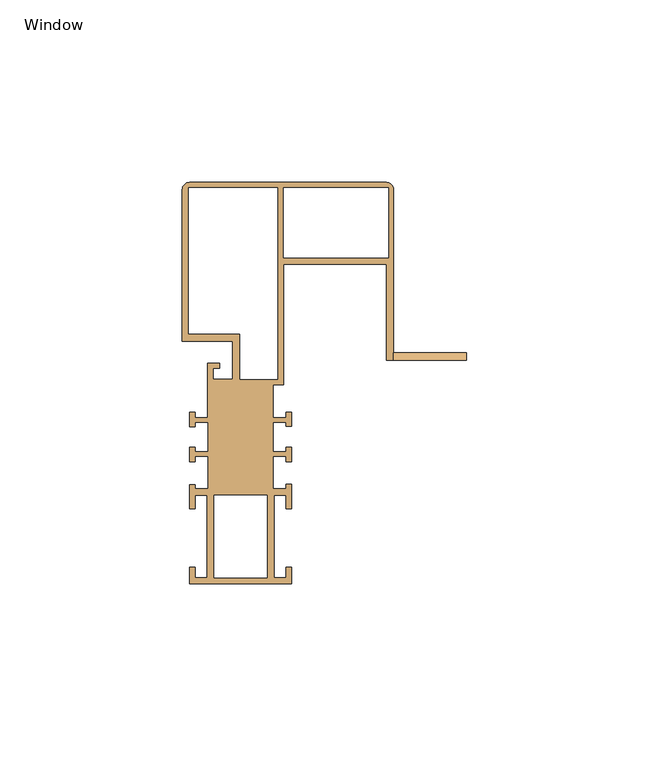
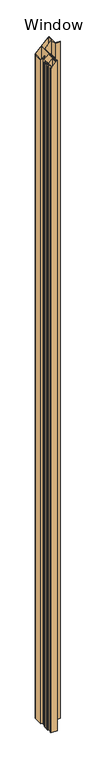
"""IFC4 building model written with IfcOpenShell, lengths in millimetres: door geometry, QO-H-QB_Door Module : Window."""

from ifc_helpers import new_model, si_unit, frame, origin, place, context, project, spatial, circle_curve, ellipse_curve, source, transform, mapped, element, save
from ifc_brep_helpers import plane_surface, cylinder_surface, advanced_brep


def window_c7373859(model_context):
    return source(origin(), model_context, "Body", "AdvancedBrep", [
        advanced_brep(
        [(654.4523452, -75.0037405, -4.0), (654.4523452, -84.0037561, -4.0), (658.0018295, -84.0037561, -4.0), (658.0018295, -82.8037561, -4.0), (659.5018295, -82.8037561, -4.0), (659.5018295, -89.5037561, -4.0), (658.0018295, -89.5037561, -4.0), (658.0018295, -85.7037561, -4.0), (654.7018295, -85.7037561, -4.0), (654.7018295, -108.3037561, -4.0), (658.0018295, -108.3037561, -4.0), (658.0018295, -105.5037561, -4.0), (659.5018295, -105.5037561, -4.0), (659.5018295, -110.0037561, -4.0), (631.5018295, -110.0037561, -4.0), (631.5018295, -105.5037561, -4.0), (633.0018295, -105.5037561, -4.0), (633.0018295, -108.3037561, -4.0), (636.3018295, -108.3037561, -4.0), (636.3018295, -85.7037561, -4.0), (633.0018295, -85.7037561, -4.0), (633.0018295, -89.5037561, -4.0), (631.5018295, -89.5037561, -4.0), (631.5018295, -82.8037561, -4.0), (633.0018295, -82.8037561, -4.0), (633.0018295, -84.0037561, -4.0), (636.5513139, -84.0037561, -4.0), (636.5513139, -75.0037405, -4.0), (633.0513133, -75.0037405, -4.0), (633.0513133, -76.5037405, -4.0), (631.5513133, -76.5037405, -4.0), (631.5513133, -72.6037405, -4.0), (633.0513133, -72.6037405, -4.0), (633.0513133, -73.8037405, -4.0), (636.5513133, -73.8037405, -4.0), (636.5513133, -65.7037405, -4.0), (633.0513133, -65.7037405, -4.0), (633.0513133, -66.9037405, -4.0), (631.5513133, -66.9037405, -4.0), (631.5513133, -63.0037405, -4.0), (633.0513133, -63.0037405, -4.0), (633.0513133, -64.5037405, -4.0), (636.5, -64.5037405, -4.0), (636.5, -49.6, -4.0), (639.8, -49.6, -4.0), (639.8, -51.0, -4.0), (637.9, -51.0, -4.0), (637.9, -54.0, -4.0), (643.3, -54.0, -4.0), (643.3, -43.5, -4.0), (629.5, -43.5, -4.0), (629.5, -2.0, -4.0), (631.5, 0.0, -4.0), (685.5, 0.0, -4.0), (687.5, -2.0, -4.0), (687.5, -46.7, -4.0), (707.4990835, -46.7, -4.0), (707.4990835, -48.7, -4.0), (685.4990835, -48.7, -4.0), (685.4990835, -22.4, -4.0), (657.3, -22.4, -4.0), (657.3, -55.4999986, -4.0), (654.4523459, -55.4999986, -4.0), (654.4523459, -64.5037405, -4.0), (657.9523458, -64.5037405, -4.0), (657.9523458, -63.0037405, -4.0), (659.4523458, -63.0037405, -4.0), (659.4523458, -66.9037405, -4.0), (657.9523458, -66.9037405, -4.0), (657.9523458, -65.7037405, -4.0), (654.4523458, -65.7037405, -4.0), (654.4523458, -73.8037405, -4.0), (657.9523458, -73.8037405, -4.0), (657.9523458, -72.6037405, -4.0), (659.4523458, -72.6037405, -4.0), (659.4523458, -76.5037405, -4.0), (657.9523458, -76.5037405, -4.0), (657.9523458, -75.0037405, -4.0), (657.3, -1.5, -4.0), (657.3, -20.7, -4.0), (686.0, -20.7, -4.0), (686.0, -1.5, -4.0), (645.3, -41.5, -4.0), (645.3, -54.0, -4.0), (655.6, -54.0, -4.0), (655.6, -1.5, -4.0), (631.2, -1.5, -4.0), (631.2, -41.5, -4.0), (638.2018295, -108.3037561, -4.0), (652.8018295, -108.3037561, -4.0), (652.8018295, -85.7037561, -4.0), (638.2018295, -85.7037561, -4.0), (654.4523452, -75.0037405, 2939.9523452), (654.4523452, -84.0037561, 2939.9523452), (658.0018295, -84.0037561, 2943.5018295), (658.0018295, -82.8037561, 2943.5018295), (659.5018295, -82.8037561, 2945.0018295), (659.5018295, -89.5037561, 2945.0018295), (658.0018295, -89.5037561, 2943.5018295), (658.0018295, -85.7037561, 2943.5018295), (654.7018295, -85.7037561, 2940.2018295), (654.7018295, -108.3037561, 2940.2018295), (658.0018295, -108.3037561, 2943.5018295), (658.0018295, -105.5037561, 2943.5018295), (659.5018295, -105.5037561, 2945.0018295), (659.5018295, -110.0037561, 2945.0018295), (631.5018295, -110.0037561, 2917.0018295), (631.5018295, -105.5037561, 2917.0018295), (633.0018295, -105.5037561, 2918.5018295), (633.0018295, -108.3037561, 2918.5018295), (636.3018295, -108.3037561, 2921.8018295), (636.3018295, -85.7037561, 2921.8018295), (633.0018295, -85.7037561, 2918.5018295), (633.0018295, -89.5037561, 2918.5018295), (631.5018295, -89.5037561, 2917.0018295), (631.5018295, -82.8037561, 2917.0018295), (633.0018295, -82.8037561, 2918.5018295), (633.0018295, -84.0037561, 2918.5018295), (636.5513139, -84.0037561, 2922.0513139), (636.5513139, -75.0037405, 2922.0513139), (633.0513133, -75.0037405, 2918.5513133), (633.0513133, -76.5037405, 2918.5513133), (631.5513133, -76.5037405, 2917.0513133), (631.5513133, -72.6037405, 2917.0513133), (633.0513133, -72.6037405, 2918.5513133), (633.0513133, -73.8037405, 2918.5513133), (636.5513133, -73.8037405, 2922.0513133), (636.5513133, -65.7037405, 2922.0513133), (633.0513133, -65.7037405, 2918.5513133), (633.0513133, -66.9037405, 2918.5513133), (631.5513133, -66.9037405, 2917.0513133), (631.5513133, -63.0037405, 2917.0513133), (633.0513133, -63.0037405, 2918.5513133), (633.0513133, -64.5037405, 2918.5513133), (636.5, -64.5037405, 2922.0), (636.5, -49.6, 2922.0), (639.8, -49.6, 2925.3), (639.8, -51.0, 2925.3), (637.9, -51.0, 2923.4), (637.9, -54.0, 2923.4), (643.3, -54.0, 2928.8), (643.3, -43.5, 2928.8), (629.5, -43.5, 2915.0), (629.5, -2.0, 2915.0), (631.5, 0.0, 2917.0), (685.5, 0.0, 2971.0), (687.5, -2.0, 2973.0), (687.5, -46.7, 2973.0), (707.4990835, -46.7, 2973.0), (707.4990835, -48.7, 2973.0), (687.5, -48.7, 2973.0), (685.4990835, -48.7, 2970.9990835), (685.4990835, -22.4, 2970.9990835), (657.3, -22.4, 2942.8), (657.3, -55.4999986, 2942.8), (654.4523459, -55.4999986, 2939.9523459), (654.4523459, -64.5037405, 2939.9523459), (657.9523458, -64.5037405, 2943.4523458), (657.9523458, -63.0037405, 2943.4523458), (659.4523458, -63.0037405, 2944.9523458), (659.4523458, -66.9037405, 2944.9523458), (657.9523458, -66.9037405, 2943.4523458), (657.9523458, -65.7037405, 2943.4523458), (654.4523458, -65.7037405, 2939.9523458), (654.4523458, -73.8037405, 2939.9523458), (657.9523458, -73.8037405, 2943.4523458), (657.9523458, -72.6037405, 2943.4523458), (659.4523458, -72.6037405, 2944.9523458), (659.4523458, -76.5037405, 2944.9523458), (657.9523458, -76.5037405, 2943.4523458), (657.9523458, -75.0037405, 2943.4523458), (657.3, -1.5, 2942.8), (657.3, -20.7, 2942.8), (686.0, -20.7, 2971.5), (686.0, -1.5, 2971.5), (645.3, -41.5, 2930.8), (645.3, -54.0, 2930.8), (655.6, -54.0, 2941.1), (655.6, -1.5, 2941.1), (631.2, -1.5, 2916.7), (631.2, -41.5, 2916.7), (638.2018295, -108.3037561, 2923.7018295), (652.8018295, -108.3037561, 2938.3018295), (652.8018295, -85.7037561, 2938.3018295), (638.2018295, -85.7037561, 2923.7018295)],
        [
            (0, 1),
            (1, 2),
            (2, 3),
            (3, 4),
            (4, 5),
            (5, 6),
            (6, 7),
            (7, 8),
            (8, 9),
            (9, 10),
            (10, 11),
            (11, 12),
            (12, 13),
            (13, 14),
            (14, 15),
            (15, 16),
            (16, 17),
            (17, 18),
            (18, 19),
            (19, 20),
            (20, 21),
            (21, 22),
            (22, 23),
            (23, 24),
            (24, 25),
            (25, 26),
            (26, 27),
            (27, 28),
            (28, 29),
            (29, 30),
            (30, 31),
            (31, 32),
            (32, 33),
            (33, 34),
            (34, 35),
            (35, 36),
            (36, 37),
            (37, 38),
            (38, 39),
            (39, 40),
            (40, 41),
            (41, 42),
            (42, 43),
            (43, 44),
            (44, 45),
            (45, 46),
            (46, 47),
            (47, 48),
            (48, 49),
            (49, 50),
            (50, 51),
            (51, 52, circle_curve(frame((631.5, -2.0, -4.0), z_axis=(0.0, 0.0, -1.0), x_axis=(0.0, -1.0, 0.0)), 2.0)),
            (52, 53),
            (53, 54, circle_curve(frame((685.5, -2.0, -4.0), z_axis=(0.0, 0.0, -1.0), x_axis=(0.0, -1.0, 0.0)), 2.0)),
            (54, 55),
            (55, 56),
            (56, 57),
            (57, 58),
            (58, 59),
            (59, 60),
            (60, 61),
            (61, 62),
            (62, 63),
            (63, 64),
            (64, 65),
            (65, 66),
            (66, 67),
            (67, 68),
            (68, 69),
            (69, 70),
            (70, 71),
            (71, 72),
            (72, 73),
            (73, 74),
            (74, 75),
            (75, 76),
            (76, 77),
            (77, 0),
            (78, 79),
            (79, 80),
            (80, 81),
            (81, 78),
            (82, 83),
            (83, 84),
            (84, 85),
            (85, 86),
            (86, 87),
            (87, 82),
            (88, 89),
            (89, 90),
            (90, 91),
            (91, 88),
            (0, 92),
            (92, 93),
            (93, 1),
            (93, 94),
            (94, 2),
            (94, 95),
            (95, 3),
            (95, 96),
            (96, 4),
            (96, 97),
            (97, 5),
            (97, 98),
            (98, 6),
            (98, 99),
            (99, 7),
            (99, 100),
            (100, 8),
            (100, 101),
            (101, 9),
            (101, 102),
            (102, 10),
            (102, 103),
            (103, 11),
            (103, 104),
            (104, 12),
            (104, 105),
            (105, 13),
            (105, 106),
            (106, 14),
            (106, 107),
            (107, 15),
            (107, 108),
            (108, 16),
            (108, 109),
            (109, 17),
            (109, 110),
            (110, 18),
            (110, 111),
            (111, 19),
            (111, 112),
            (112, 20),
            (112, 113),
            (113, 21),
            (113, 114),
            (114, 22),
            (114, 115),
            (115, 23),
            (115, 116),
            (116, 24),
            (116, 117),
            (117, 25),
            (117, 118),
            (118, 26),
            (118, 119),
            (119, 27),
            (119, 120),
            (120, 28),
            (120, 121),
            (121, 29),
            (121, 122),
            (122, 30),
            (122, 123),
            (123, 31),
            (123, 124),
            (124, 32),
            (124, 125),
            (125, 33),
            (125, 126),
            (126, 34),
            (126, 127),
            (127, 35),
            (127, 128),
            (128, 36),
            (128, 129),
            (129, 37),
            (129, 130),
            (130, 38),
            (130, 131),
            (131, 39),
            (131, 132),
            (132, 40),
            (132, 133),
            (133, 41),
            (133, 134),
            (134, 42),
            (134, 135),
            (135, 43),
            (135, 136),
            (136, 44),
            (136, 137),
            (137, 45),
            (137, 138),
            (138, 46),
            (138, 139),
            (139, 47),
            (139, 140),
            (140, 48),
            (140, 141),
            (141, 49),
            (141, 142),
            (142, 50),
            (142, 143),
            (143, 51),
            (143, 144, ellipse_curve(frame((631.5, -2.0, 2917.0), z_axis=(0.7071067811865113, 0.0, -0.7071067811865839), x_axis=(0.7071067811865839, 0.0, 0.707106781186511)), 2.8284271, 2.0)),
            (144, 52),
            (144, 145),
            (145, 53),
            (145, 146, ellipse_curve(frame((685.5, -2.0, 2971.0), z_axis=(0.7071067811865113, 0.0, -0.7071067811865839), x_axis=(0.7071067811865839, 0.0, 0.707106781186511)), 2.8284271, 2.0)),
            (146, 54),
            (146, 147),
            (147, 55),
            (147, 148),
            (148, 56),
            (148, 149),
            (149, 57),
            (149, 150),
            (150, 151),
            (151, 58),
            (151, 152),
            (152, 59),
            (152, 153),
            (153, 60),
            (153, 154),
            (154, 61),
            (154, 155),
            (155, 62),
            (155, 156),
            (156, 63),
            (156, 157),
            (157, 64),
            (157, 158),
            (158, 65),
            (158, 159),
            (159, 66),
            (159, 160),
            (160, 67),
            (160, 161),
            (161, 68),
            (161, 162),
            (162, 69),
            (162, 163),
            (163, 70),
            (163, 164),
            (164, 71),
            (164, 165),
            (165, 72),
            (165, 166),
            (166, 73),
            (166, 167),
            (167, 74),
            (167, 168),
            (168, 75),
            (168, 169),
            (169, 76),
            (169, 170),
            (170, 77),
            (170, 92),
            (78, 171),
            (171, 172),
            (172, 79),
            (172, 173),
            (173, 80),
            (173, 174),
            (174, 81),
            (174, 171),
            (82, 175),
            (175, 176),
            (176, 83),
            (176, 177),
            (177, 84),
            (177, 178),
            (178, 85),
            (178, 179),
            (179, 86),
            (179, 180),
            (180, 87),
            (180, 175),
            (88, 181),
            (181, 182),
            (182, 89),
            (182, 183),
            (183, 90),
            (183, 184),
            (184, 91),
            (184, 181),
            (147, 150),
        ],
        [
            plane_surface(frame((700.0, 0.0, -4.0), z_axis=(0.0, 0.0, -1.0), x_axis=(0.0, -1.0, 0.0))),
            plane_surface(frame((654.4523452, -84.0037561, 2973.0), z_axis=(1.0, 0.0, 0.0), x_axis=(0.0, 0.0, -1.0))),
            plane_surface(frame((658.0018295, -84.0037561, 2973.0), z_axis=(0.0, 1.0, 0.0), x_axis=(0.0, 0.0, -1.0))),
            plane_surface(frame((658.0018295, -82.8037561, 2973.0), z_axis=(-1.0, 0.0, 0.0), x_axis=(0.0, 0.0, -1.0))),
            plane_surface(frame((659.5018295, -82.8037561, 2973.0), z_axis=(0.0, 1.0, 0.0), x_axis=(0.0, 0.0, -1.0))),
            plane_surface(frame((659.5018295, -89.5037561, 2973.0), z_axis=(1.0, 0.0, 0.0), x_axis=(0.0, 0.0, -1.0))),
            plane_surface(frame((658.0018295, -89.5037561, 2973.0), z_axis=(0.0, -1.0, 0.0), x_axis=(0.0, 0.0, -1.0))),
            plane_surface(frame((658.0018295, -85.7037561, 2973.0), z_axis=(-1.0, 0.0, 0.0), x_axis=(0.0, 0.0, -1.0))),
            plane_surface(frame((654.7018295, -85.7037561, 2973.0), z_axis=(0.0, -1.0, 0.0), x_axis=(0.0, 0.0, -1.0))),
            plane_surface(frame((654.7018295, -108.3037561, 2973.0), z_axis=(1.0, 0.0, 0.0), x_axis=(0.0, 0.0, -1.0))),
            plane_surface(frame((658.0018295, -108.3037561, 2973.0), z_axis=(0.0, 1.0, 0.0), x_axis=(0.0, 0.0, -1.0))),
            plane_surface(frame((658.0018295, -105.5037561, 2973.0), z_axis=(-1.0, 0.0, 0.0), x_axis=(0.0, 0.0, -1.0))),
            plane_surface(frame((659.5018295, -105.5037561, 2973.0), z_axis=(0.0, 1.0, 0.0), x_axis=(0.0, 0.0, -1.0))),
            plane_surface(frame((659.5018295, -110.0037561, 2973.0), z_axis=(1.0, 0.0, 0.0), x_axis=(0.0, 0.0, -1.0))),
            plane_surface(frame((631.5018295, -110.0037561, 2973.0), z_axis=(0.0, -1.0, 0.0), x_axis=(0.0, 0.0, -1.0))),
            plane_surface(frame((631.5018295, -105.5037561, 2973.0), z_axis=(-1.0, 0.0, 0.0), x_axis=(0.0, 0.0, -1.0))),
            plane_surface(frame((633.0018295, -105.5037561, 2973.0), z_axis=(0.0, 1.0, 0.0), x_axis=(0.0, 0.0, -1.0))),
            plane_surface(frame((633.0018295, -108.3037561, 2973.0), z_axis=(1.0, 0.0, 0.0), x_axis=(0.0, 0.0, -1.0))),
            plane_surface(frame((636.3018295, -108.3037561, 2973.0), z_axis=(0.0, 1.0, 0.0), x_axis=(0.0, 0.0, -1.0))),
            plane_surface(frame((636.3018295, -85.7037561, 2973.0), z_axis=(-1.0, 0.0, 0.0), x_axis=(0.0, 0.0, -1.0))),
            plane_surface(frame((633.0018295, -85.7037561, 2973.0), z_axis=(0.0, -1.0, 0.0), x_axis=(0.0, 0.0, -1.0))),
            plane_surface(frame((633.0018295, -89.5037561, 2973.0), z_axis=(1.0, 0.0, 0.0), x_axis=(0.0, 0.0, -1.0))),
            plane_surface(frame((631.5018295, -89.5037561, 2973.0), z_axis=(0.0, -1.0, 0.0), x_axis=(0.0, 0.0, -1.0))),
            plane_surface(frame((631.5018295, -82.8037561, 2973.0), z_axis=(-1.0, 0.0, 0.0), x_axis=(0.0, 0.0, -1.0))),
            plane_surface(frame((633.0018295, -82.8037561, 2973.0), z_axis=(0.0, 1.0, 0.0), x_axis=(0.0, 0.0, -1.0))),
            plane_surface(frame((633.0018295, -84.0037561, 2973.0), z_axis=(1.0, 0.0, 0.0), x_axis=(0.0, 0.0, -1.0))),
            plane_surface(frame((636.5513139, -84.0037561, 2973.0), z_axis=(0.0, 1.0, 0.0), x_axis=(0.0, 0.0, -1.0))),
            plane_surface(frame((636.5513139, -75.0037405, 2973.0), z_axis=(-1.0, 0.0, 0.0), x_axis=(0.0, 0.0, -1.0))),
            plane_surface(frame((633.0513133, -75.0037405, 2973.0), z_axis=(0.0, -1.0, 0.0), x_axis=(0.0, 0.0, -1.0))),
            plane_surface(frame((633.0513133, -76.5037405, 2973.0), z_axis=(1.0, 0.0, 0.0), x_axis=(0.0, 0.0, -1.0))),
            plane_surface(frame((631.5513133, -76.5037405, 2973.0), z_axis=(0.0, -1.0, 0.0), x_axis=(0.0, 0.0, -1.0))),
            plane_surface(frame((631.5513133, -72.6037405, 2973.0), z_axis=(-1.0, 0.0, 0.0), x_axis=(0.0, 0.0, -1.0))),
            plane_surface(frame((633.0513133, -72.6037405, 2973.0), z_axis=(0.0, 1.0, 0.0), x_axis=(0.0, 0.0, -1.0))),
            plane_surface(frame((633.0513133, -73.8037405, 2973.0), z_axis=(1.0, 0.0, 0.0), x_axis=(0.0, 0.0, -1.0))),
            plane_surface(frame((636.5513133, -73.8037405, 2973.0), z_axis=(0.0, 1.0, 0.0), x_axis=(0.0, 0.0, -1.0))),
            plane_surface(frame((636.5513133, -65.7037405, 2973.0), z_axis=(-1.0, 0.0, 0.0), x_axis=(0.0, 0.0, -1.0))),
            plane_surface(frame((633.0513133, -65.7037405, 2973.0), z_axis=(0.0, -1.0, 0.0), x_axis=(0.0, 0.0, -1.0))),
            plane_surface(frame((633.0513133, -66.9037405, 2973.0), z_axis=(1.0, 0.0, 0.0), x_axis=(0.0, 0.0, -1.0))),
            plane_surface(frame((631.5513133, -66.9037405, 2973.0), z_axis=(0.0, -1.0, 0.0), x_axis=(0.0, 0.0, -1.0))),
            plane_surface(frame((631.5513133, -63.0037405, 2973.0), z_axis=(-1.0, 0.0, 0.0), x_axis=(0.0, 0.0, -1.0))),
            plane_surface(frame((633.0513133, -63.0037405, 2973.0), z_axis=(0.0, 1.0, 0.0), x_axis=(0.0, 0.0, -1.0))),
            plane_surface(frame((633.0513133, -64.5037405, 2973.0), z_axis=(1.0, 0.0, 0.0), x_axis=(0.0, 0.0, -1.0))),
            plane_surface(frame((636.5, -64.5037405, 2973.0), z_axis=(0.0, 1.0, 0.0), x_axis=(0.0, 0.0, -1.0))),
            plane_surface(frame((636.5, -49.6, 2973.0), z_axis=(-1.0, 0.0, 0.0), x_axis=(0.0, 0.0, -1.0))),
            plane_surface(frame((639.8, -49.6, 2973.0), z_axis=(0.0, 1.0, 0.0), x_axis=(0.0, 0.0, -1.0))),
            plane_surface(frame((639.8, -51.0, 2973.0), z_axis=(1.0, 0.0, 0.0), x_axis=(0.0, 0.0, -1.0))),
            plane_surface(frame((637.9, -51.0, 2973.0), z_axis=(0.0, -1.0, 0.0), x_axis=(0.0, 0.0, -1.0))),
            plane_surface(frame((637.9, -54.0, 2973.0), z_axis=(1.0, 0.0, 0.0), x_axis=(0.0, 0.0, -1.0))),
            plane_surface(frame((643.3, -54.0, 2973.0), z_axis=(0.0, 1.0, 0.0), x_axis=(0.0, 0.0, -1.0))),
            plane_surface(frame((643.3, -43.5, 2973.0), z_axis=(-1.0, 0.0, 0.0), x_axis=(0.0, 0.0, -1.0))),
            plane_surface(frame((629.5, -43.5, 2973.0), z_axis=(0.0, -1.0, 0.0), x_axis=(0.0, 0.0, -1.0))),
            plane_surface(frame((629.5, -2.0, 2973.0), z_axis=(-1.0, 0.0, 0.0), x_axis=(0.0, 0.0, -1.0))),
            cylinder_surface(frame((631.5, -2.0, 2973.0), z_axis=(0.0, 0.0, 1.0), x_axis=(0.0, -1.0, 0.0)), 2.0),
            plane_surface(frame((685.5, 0.0, 2973.0), z_axis=(0.0, 1.0, 0.0), x_axis=(0.0, 0.0, -1.0))),
            cylinder_surface(frame((685.5, -2.0, 2973.0), z_axis=(0.0, 0.0, 1.0), x_axis=(0.0, -1.0, 0.0)), 2.0),
            plane_surface(frame((687.5, -46.7, 2973.0), z_axis=(1.0, 0.0, 0.0), x_axis=(0.0, 0.0, -1.0))),
            plane_surface(frame((707.4990835, -46.7, 2973.0), z_axis=(0.0, 1.0, 0.0), x_axis=(0.0, 0.0, -1.0))),
            plane_surface(frame((707.4990835, -48.7, 2973.0), z_axis=(1.0, 0.0, 0.0), x_axis=(0.0, 0.0, -1.0))),
            plane_surface(frame((685.4990835, -48.7, 2973.0), z_axis=(0.0, -1.0, 0.0), x_axis=(0.0, 0.0, -1.0))),
            plane_surface(frame((685.4990835, -22.4, 2973.0), z_axis=(-1.0, 0.0, 0.0), x_axis=(0.0, 0.0, -1.0))),
            plane_surface(frame((657.3, -22.4, 2973.0), z_axis=(0.0, -1.0, 0.0), x_axis=(0.0, 0.0, -1.0))),
            plane_surface(frame((657.3, -55.4999986, 2973.0), z_axis=(1.0, 0.0, 0.0), x_axis=(0.0, 0.0, -1.0))),
            plane_surface(frame((654.4523459, -55.4999986, 2973.0), z_axis=(0.0, -1.0, 0.0), x_axis=(0.0, 0.0, -1.0))),
            plane_surface(frame((654.4523459, -64.5037405, 2973.0), z_axis=(1.0, 0.0, 0.0), x_axis=(0.0, 0.0, -1.0))),
            plane_surface(frame((657.9523458, -64.5037405, 2973.0), z_axis=(0.0, 1.0, 0.0), x_axis=(0.0, 0.0, -1.0))),
            plane_surface(frame((657.9523458, -63.0037405, 2973.0), z_axis=(-1.0, 0.0, 0.0), x_axis=(0.0, 0.0, -1.0))),
            plane_surface(frame((659.4523458, -63.0037405, 2973.0), z_axis=(0.0, 1.0, 0.0), x_axis=(0.0, 0.0, -1.0))),
            plane_surface(frame((659.4523458, -66.9037405, 2973.0), z_axis=(1.0, 0.0, 0.0), x_axis=(0.0, 0.0, -1.0))),
            plane_surface(frame((657.9523458, -66.9037405, 2973.0), z_axis=(0.0, -1.0, 0.0), x_axis=(0.0, 0.0, -1.0))),
            plane_surface(frame((657.9523458, -65.7037405, 2973.0), z_axis=(-1.0, 0.0, 0.0), x_axis=(0.0, 0.0, -1.0))),
            plane_surface(frame((654.4523458, -65.7037405, 2973.0), z_axis=(0.0, -1.0, 0.0), x_axis=(0.0, 0.0, -1.0))),
            plane_surface(frame((654.4523458, -73.8037405, 2973.0), z_axis=(1.0, 0.0, 0.0), x_axis=(0.0, 0.0, -1.0))),
            plane_surface(frame((657.9523458, -73.8037405, 2973.0), z_axis=(0.0, 1.0, 0.0), x_axis=(0.0, 0.0, -1.0))),
            plane_surface(frame((657.9523458, -72.6037405, 2973.0), z_axis=(-1.0, 0.0, 0.0), x_axis=(0.0, 0.0, -1.0))),
            plane_surface(frame((659.4523458, -72.6037405, 2973.0), z_axis=(0.0, 1.0, 0.0), x_axis=(0.0, 0.0, -1.0))),
            plane_surface(frame((659.4523458, -76.5037405, 2973.0), z_axis=(1.0, 0.0, 0.0), x_axis=(0.0, 0.0, -1.0))),
            plane_surface(frame((657.9523458, -76.5037405, 2973.0), z_axis=(0.0, -1.0, 0.0), x_axis=(0.0, 0.0, -1.0))),
            plane_surface(frame((657.9523458, -75.0037405, 2973.0), z_axis=(-1.0, 0.0, 0.0), x_axis=(0.0, 0.0, -1.0))),
            plane_surface(frame((654.4523452, -75.0037405, 2973.0), z_axis=(0.0, -1.0, 0.0), x_axis=(0.0, 0.0, -1.0))),
            plane_surface(frame((657.3, -20.7, 2973.0), z_axis=(1.0, 0.0, 0.0), x_axis=(0.0, 0.0, -1.0))),
            plane_surface(frame((686.0, -20.7, 2973.0), z_axis=(0.0, 1.0, 0.0), x_axis=(0.0, 0.0, -1.0))),
            plane_surface(frame((686.0, -1.5, 2973.0), z_axis=(-1.0, 0.0, 0.0), x_axis=(0.0, 0.0, -1.0))),
            plane_surface(frame((657.3, -1.5, 2973.0), z_axis=(0.0, -1.0, 0.0), x_axis=(0.0, 0.0, -1.0))),
            plane_surface(frame((645.3, -54.0, 2973.0), z_axis=(1.0, 0.0, 0.0), x_axis=(0.0, 0.0, -1.0))),
            plane_surface(frame((655.6, -54.0, 2973.0), z_axis=(0.0, 1.0, 0.0), x_axis=(0.0, 0.0, -1.0))),
            plane_surface(frame((655.6, -1.5, 2973.0), z_axis=(-1.0, 0.0, 0.0), x_axis=(0.0, 0.0, -1.0))),
            plane_surface(frame((631.2, -1.5, 2973.0), z_axis=(0.0, -1.0, 0.0), x_axis=(0.0, 0.0, -1.0))),
            plane_surface(frame((631.2, -41.5, 2973.0), z_axis=(1.0, 0.0, 0.0), x_axis=(0.0, 0.0, -1.0))),
            plane_surface(frame((645.3, -41.5, 2973.0), z_axis=(0.0, 1.0, 0.0), x_axis=(0.0, 0.0, -1.0))),
            plane_surface(frame((652.8018295, -108.3037561, 2973.0), z_axis=(0.0, 1.0, 0.0), x_axis=(0.0, 0.0, -1.0))),
            plane_surface(frame((652.8018295, -85.7037561, 2973.0), z_axis=(-1.0, 0.0, 0.0), x_axis=(0.0, 0.0, -1.0))),
            plane_surface(frame((638.2018295, -85.7037561, 2973.0), z_axis=(0.0, -1.0, 0.0), x_axis=(0.0, 0.0, -1.0))),
            plane_surface(frame((638.2018295, -108.3037561, 2973.0), z_axis=(1.0, 0.0, 0.0), x_axis=(0.0, 0.0, -1.0))),
            plane_surface(frame((700.0, 0.0, 2973.0), z_axis=(0.0, 0.0, 1.0), x_axis=(0.0, -1.0, 0.0))),
            plane_surface(frame((629.5, -180.0, 2915.0), z_axis=(-0.7071067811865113, 0.0, 0.7071067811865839), x_axis=(0.0, 1.0, 0.0))),
        ],
        [
            (0, [[1, 2, 3, 4, 5, 6, 7, 8, 9, 10, 11, 12, 13, 14, 15, 16, 17, 18, 19, 20, 21, 22, 23, 24, 25, 26, 27, 28, 29, 30, 31, 32, 33, 34, 35, 36, 37, 38, 39, 40, 41, 42, 43, 44, 45, 46, 47, 48, 49, 50, 51, 52, 53, 54, 55, 56, 57, 58, 59, 60, 61, 62, 63, 64, 65, 66, 67, 68, 69, 70, 71, 72, 73, 74, 75, 76, 77, 78], [79, 80, 81, 82], [83, 84, 85, 86, 87, 88], [89, 90, 91, 92]]),
            (1, [[-1, 93, 94, 95]]),
            (2, [[-2, -95, 96, 97]]),
            (3, [[-3, -97, 98, 99]]),
            (4, [[-4, -99, 100, 101]]),
            (5, [[-5, -101, 102, 103]]),
            (6, [[-6, -103, 104, 105]]),
            (7, [[-7, -105, 106, 107]]),
            (8, [[-8, -107, 108, 109]]),
            (9, [[-9, -109, 110, 111]]),
            (10, [[-10, -111, 112, 113]]),
            (11, [[-11, -113, 114, 115]]),
            (12, [[-12, -115, 116, 117]]),
            (13, [[-13, -117, 118, 119]]),
            (14, [[-14, -119, 120, 121]]),
            (15, [[-15, -121, 122, 123]]),
            (16, [[-16, -123, 124, 125]]),
            (17, [[-17, -125, 126, 127]]),
            (18, [[-18, -127, 128, 129]]),
            (19, [[-19, -129, 130, 131]]),
            (20, [[-20, -131, 132, 133]]),
            (21, [[-21, -133, 134, 135]]),
            (22, [[-22, -135, 136, 137]]),
            (23, [[-23, -137, 138, 139]]),
            (24, [[-24, -139, 140, 141]]),
            (25, [[-25, -141, 142, 143]]),
            (26, [[-26, -143, 144, 145]]),
            (27, [[-27, -145, 146, 147]]),
            (28, [[-28, -147, 148, 149]]),
            (29, [[-29, -149, 150, 151]]),
            (30, [[-30, -151, 152, 153]]),
            (31, [[-31, -153, 154, 155]]),
            (32, [[-32, -155, 156, 157]]),
            (33, [[-33, -157, 158, 159]]),
            (34, [[-34, -159, 160, 161]]),
            (35, [[-35, -161, 162, 163]]),
            (36, [[-36, -163, 164, 165]]),
            (37, [[-37, -165, 166, 167]]),
            (38, [[-38, -167, 168, 169]]),
            (39, [[-39, -169, 170, 171]]),
            (40, [[-40, -171, 172, 173]]),
            (41, [[-41, -173, 174, 175]]),
            (42, [[-42, -175, 176, 177]]),
            (43, [[-43, -177, 178, 179]]),
            (44, [[-44, -179, 180, 181]]),
            (45, [[-45, -181, 182, 183]]),
            (46, [[-46, -183, 184, 185]]),
            (47, [[-47, -185, 186, 187]]),
            (48, [[-48, -187, 188, 189]]),
            (49, [[-49, -189, 190, 191]]),
            (50, [[-50, -191, 192, 193]]),
            (51, [[-51, -193, 194, 195]]),
            (52, [[-52, -195, 196, 197]]),
            (53, [[-53, -197, 198, 199]]),
            (54, [[-54, -199, 200, 201]]),
            (55, [[-55, -201, 202, 203]]),
            (56, [[204, 205, -56, -203]]),
            (57, [[206, 207, -57, -205]]),
            (58, [[-58, -207, 208, 209, 210]]),
            (59, [[-59, -210, 211, 212]]),
            (60, [[-60, -212, 213, 214]]),
            (61, [[-61, -214, 215, 216]]),
            (62, [[-62, -216, 217, 218]]),
            (63, [[-63, -218, 219, 220]]),
            (64, [[-64, -220, 221, 222]]),
            (65, [[-65, -222, 223, 224]]),
            (66, [[-66, -224, 225, 226]]),
            (67, [[-67, -226, 227, 228]]),
            (68, [[-68, -228, 229, 230]]),
            (69, [[-69, -230, 231, 232]]),
            (70, [[-70, -232, 233, 234]]),
            (71, [[-71, -234, 235, 236]]),
            (72, [[-72, -236, 237, 238]]),
            (73, [[-73, -238, 239, 240]]),
            (74, [[-74, -240, 241, 242]]),
            (75, [[-75, -242, 243, 244]]),
            (76, [[-76, -244, 245, 246]]),
            (77, [[-77, -246, 247, 248]]),
            (78, [[-78, -248, 249, -93]]),
            (79, [[-79, 250, 251, 252]]),
            (80, [[-80, -252, 253, 254]]),
            (81, [[-81, -254, 255, 256]]),
            (82, [[-82, -256, 257, -250]]),
            (83, [[-83, 258, 259, 260]]),
            (84, [[-84, -260, 261, 262]]),
            (85, [[-85, -262, 263, 264]]),
            (86, [[-86, -264, 265, 266]]),
            (87, [[-87, -266, 267, 268]]),
            (88, [[-88, -268, 269, -258]]),
            (89, [[-89, 270, 271, 272]]),
            (90, [[-90, -272, 273, 274]]),
            (91, [[-91, -274, 275, 276]]),
            (92, [[-92, -276, 277, -270]]),
            (93, [[-206, -204, 278, -208]]),
            (94, [[-278, -202, -200, -198, -196, -194, -192, -190, -188, -186, -184, -182, -180, -178, -176, -174, -172, -170, -168, -166, -164, -162, -160, -158, -156, -154, -152, -150, -148, -146, -144, -142, -140, -138, -136, -134, -132, -130, -128, -126, -124, -122, -120, -118, -116, -114, -112, -110, -108, -106, -104, -102, -100, -98, -96, -94, -249, -247, -245, -243, -241, -239, -237, -235, -233, -231, -229, -227, -225, -223, -221, -219, -217, -215, -213, -211, -209], [-257, -255, -253, -251], [-269, -267, -265, -263, -261, -259], [-277, -275, -273, -271]]),
        ],
    ),
    ])


if __name__ == "__main__":
    model = new_model("IFC4")
    model_context = context("Model", 3, world=origin())
    ifc_project = project(units=[si_unit("LENGTHUNIT", "METRE", prefix="MILLI")], contexts=[model_context])
    site = spatial("IfcSite", under=ifc_project)
    building = spatial("IfcBuilding", under=site)
    placement = place(None, origin())
    window_shape = window_c7373859(model_context)
    element("IfcDoor", 1, ObjectType="QO-H-QB_Door Module : Window", at=placement, inside=building, context=model_context, shape_type="MappedRepresentation", body=[
        mapped(window_shape, transform((0.0, 0.0, 0.0), x_axis=(1.0, 0.0, 0.0), y_axis=(0.0, 1.0, 0.0), z_axis=(0.0, 0.0, 1.0))),
    ])
    save(model, "model.ifc")
